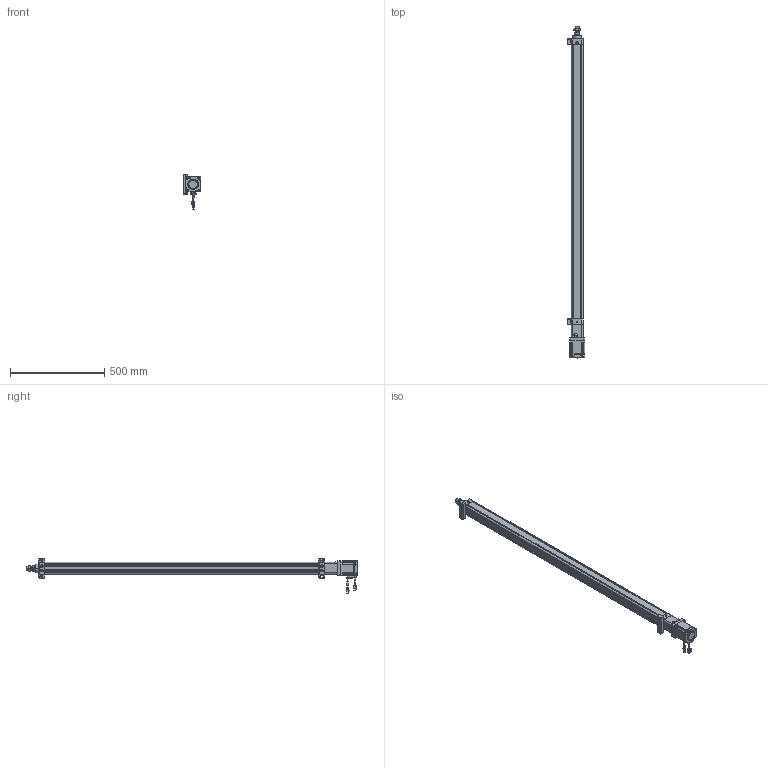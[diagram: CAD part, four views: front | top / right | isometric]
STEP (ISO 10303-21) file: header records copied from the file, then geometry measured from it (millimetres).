
FILE_DESCRIPTION((''),'2;1');
FILE_NAME('HE50-D-100-X1_ASM','2020-05-08T',('ASUS20200'),(''),'CREO PARAMETRIC BY PTC INC, 2014190','CREO PARAMETRIC BY PTC INC, 2014190','');
FILE_SCHEMA(('CONFIG_CONTROL_DESIGN'));
Length unit declared in the file: millimetre
Products named in the file (28): HE50-D-P-001-X1; HE50-D-P-002-X1; HE50-D-P-003-X1; HE50-D-009-X1; HE50-D-010-X1; 6301ZZ; LGLM-M8-22; SKT-16; SLM-01; YZ-M6X1; _MHMF082L1A2; _CABLE_MOTOR_BOTTOM_05; _CABLE_MOTOR_TOP_05; _MOTOR_CONNECTOR_2; _CABLE_BRAKE_BOTTOM_05; _CABLE_BRAKE_TOP_05; _MHMF_CONNECTOR_9_PIN_A6; MHMF082L1A2M2_1_ASM; M6X16; JX6X6X20; JDB303820; HE50-P-015-X1; HE50-P-016-X1; M8X25; HE50-D-P-005-X1; HE50-D-P-004-X1; HE50-D-P-008-X1; HE50-D-100-X1_ASM
Assembly tree (40 placements, depth 3):
  HE50-D-100-X1_ASM
    HE50-D-P-001-X1
    HE50-D-P-002-X1
    HE50-D-P-003-X1
    HE50-D-009-X1
    HE50-D-010-X1
    6301ZZ
    LGLM-M8-22  x8
    SKT-16
    SLM-01
    YZ-M6X1
    MHMF082L1A2M2_1_ASM
      _MHMF082L1A2
      _CABLE_MOTOR_BOTTOM_05
      _CABLE_MOTOR_TOP_05
      _MOTOR_CONNECTOR_2
      _CABLE_BRAKE_BOTTOM_05
      _CABLE_BRAKE_TOP_05
      _MHMF_CONNECTOR_9_PIN_A6
    M6X16  x4
    JX6X6X20
    JDB303820
    HE50-P-015-X1
    HE50-P-016-X1
    M8X25  x4
    HE50-D-P-005-X1
    HE50-D-P-004-X1
    HE50-D-P-008-X1
Bounding box: 92 x 1758.4 x 186.15 mm (x, y, z)
Volume: 3656699.4 mm3; surface area: 1108155.6 mm2
Topology: 39 solids, 71 shells, 2540 faces, 6183 edges, 3863 vertices
Faces by surface type: plane 1103, cylinder 733, cone 539, torus 118, sphere 44, bspline 3
Entity records: 65410 total; most frequent: CARTESIAN_POINT 12172, DIRECTION 11725, ORIENTED_EDGE 10416, EDGE_CURVE 5267, AXIS2_PLACEMENT_3D 4377, VERTEX_POINT 3322, VECTOR 2971, LINE 2971
